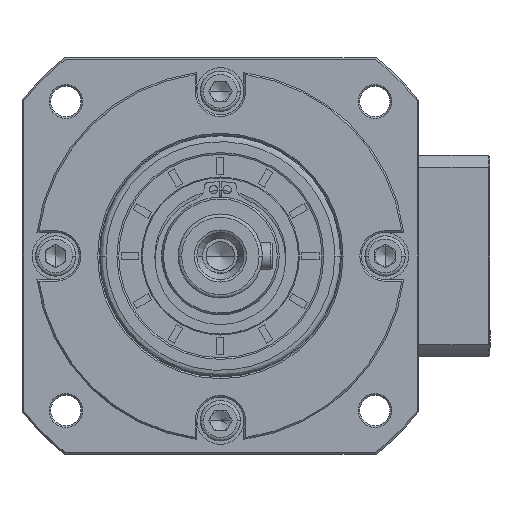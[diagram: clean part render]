
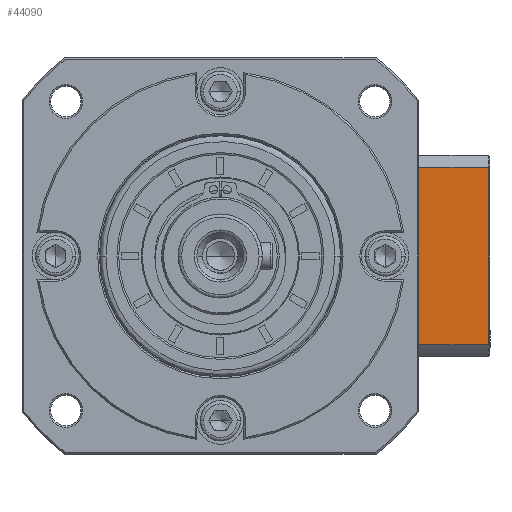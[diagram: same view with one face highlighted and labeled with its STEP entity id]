
A CAD part, left-side view. The second image highlights one B-rep face of the part: STEP entity #44090.
In plain terms, the highlighted planar face has unit normal (-1, 0, 0).
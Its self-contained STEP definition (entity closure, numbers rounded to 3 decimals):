
#1689 = VECTOR ( 'NONE', #23761, 1000. ) ;
#9745 = VERTEX_POINT ( 'NONE', #11783 ) ;
#10351 = CARTESIAN_POINT ( 'NONE',  ( -20.961, -58.409, -101.739 ) ) ;
#11783 = CARTESIAN_POINT ( 'NONE',  ( -20.961, -100.109, -93.309 ) ) ;
#17224 = LINE ( 'NONE', #60026, #156651 ) ;
#22092 = VERTEX_POINT ( 'NONE', #69784 ) ;
#23597 = LINE ( 'NONE', #56377, #162956 ) ;
#23761 = DIRECTION ( 'NONE',  ( 0., 0., -1. ) ) ;
#26802 = VERTEX_POINT ( 'NONE', #75598 ) ;
#29046 = CARTESIAN_POINT ( 'NONE',  ( -20.961, -74.458, -140.674 ) ) ;
#29794 = DIRECTION ( 'NONE',  ( 0., 1., 0. ) ) ;
#31846 = VECTOR ( 'NONE', #54413, 1000. ) ;
#34319 = CARTESIAN_POINT ( 'NONE',  ( -20.961, -74.458, -98.859 ) ) ;
#34397 = DIRECTION ( 'NONE',  ( 1., 0., 0. ) ) ;
#36609 = VERTEX_POINT ( 'NONE', #58576 ) ;
#42649 = CARTESIAN_POINT ( 'NONE',  ( -20.961, -72.909, -137.794 ) ) ;
#44090 = ADVANCED_FACE ( 'NONE', ( #70132 ), #60970, .F. ) ;
#44482 = VERTEX_POINT ( 'NONE', #162321 ) ;
#45372 = EDGE_CURVE ( 'NONE', #91946, #76340, #132675, .T. ) ;
#47194 = VERTEX_POINT ( 'NONE', #64048 ) ;
#47904 = CARTESIAN_POINT ( 'NONE',  ( -20.961, -77.007, -94.673 ) ) ;
#48639 = EDGE_CURVE ( 'NONE', #44482, #47194, #71996, .T. ) ;
#53375 = EDGE_CURVE ( 'NONE', #36609, #9745, #17224, .T. ) ;
#54413 = DIRECTION ( 'NONE',  ( 0., 1., 0. ) ) ;
#55921 = ORIENTED_EDGE ( 'NONE', *, *, #48639, .F. ) ;
#56377 = CARTESIAN_POINT ( 'NONE',  ( -20.961, -100.609, -146.224 ) ) ;
#56795 = ORIENTED_EDGE ( 'NONE', *, *, #145570, .F. ) ;
#57300 = B_SPLINE_CURVE_WITH_KNOTS ( 'NONE', 3,
 ( #96323, #109388, #109970, #29046, #123509, #42649 ),
 .UNSPECIFIED., .F., .F.,
 ( 4, 2, 4 ),
 ( 0., 0.005, 0.01 ),
 .UNSPECIFIED. ) ;
#58576 = CARTESIAN_POINT ( 'NONE',  ( -20.961, -77.909, -93.309 ) ) ;
#60026 = CARTESIAN_POINT ( 'NONE',  ( -20.961, -100.609, -93.309 ) ) ;
#60866 = VECTOR ( 'NONE', #165232, 1000. ) ;
#60970 = PLANE ( 'NONE',  #61516 ) ;
#61516 = AXIS2_PLACEMENT_3D ( 'NONE', #115255, #34397, #128830 ) ;
#64048 = CARTESIAN_POINT ( 'NONE',  ( -20.961, -58.409, -137.794 ) ) ;
#67960 = CARTESIAN_POINT ( 'NONE',  ( -20.961, -72.909, -137.794 ) ) ;
#69784 = CARTESIAN_POINT ( 'NONE',  ( -20.961, -77.909, -146.224 ) ) ;
#70132 = FACE_OUTER_BOUND ( 'NONE', #76410, .T. ) ;
#70839 = CARTESIAN_POINT ( 'NONE',  ( -20.961, -100.609, -101.739 ) ) ;
#71996 = LINE ( 'NONE', #67960, #31846 ) ;
#74442 = CARTESIAN_POINT ( 'NONE',  ( -20.961, -72.909, -101.739 ) ) ;
#75598 = CARTESIAN_POINT ( 'NONE',  ( -20.961, -100.109, -146.224 ) ) ;
#76340 = VERTEX_POINT ( 'NONE', #129571 ) ;
#76410 = EDGE_LOOP ( 'NONE', ( #93233, #146979, #56795, #115026, #101735, #55921, #127004, #95961 ) ) ;
#78848 = DIRECTION ( 'NONE',  ( 0., 0., -1. ) ) ;
#84258 = LINE ( 'NONE', #159737, #156162 ) ;
#87718 = DIRECTION ( 'NONE',  ( 0., -1., 0. ) ) ;
#87975 = CARTESIAN_POINT ( 'NONE',  ( -20.961, -73.658, -100.284 ) ) ;
#91580 = CARTESIAN_POINT ( 'NONE',  ( -20.961, -100.109, -149.766 ) ) ;
#91946 = VERTEX_POINT ( 'NONE', #10351 ) ;
#93233 = ORIENTED_EDGE ( 'NONE', *, *, #109505, .F. ) ;
#95961 = ORIENTED_EDGE ( 'NONE', *, *, #162093, .F. ) ;
#96323 = CARTESIAN_POINT ( 'NONE',  ( -20.961, -77.909, -146.224 ) ) ;
#101735 = ORIENTED_EDGE ( 'NONE', *, *, #149735, .T. ) ;
#109388 = CARTESIAN_POINT ( 'NONE',  ( -20.961, -77.007, -144.86 ) ) ;
#109505 = EDGE_CURVE ( 'NONE', #9745, #26802, #141157, .T. ) ;
#109970 = CARTESIAN_POINT ( 'NONE',  ( -20.961, -76.133, -143.479 ) ) ;
#115026 = ORIENTED_EDGE ( 'NONE', *, *, #45372, .F. ) ;
#115255 = CARTESIAN_POINT ( 'NONE',  ( -20.961, -100.609, -149.766 ) ) ;
#116931 = B_SPLINE_CURVE_WITH_KNOTS ( 'NONE', 3,
 ( #74442, #87975, #34319, #128759, #47904, #142354 ),
 .UNSPECIFIED., .F., .F.,
 ( 4, 2, 4 ),
 ( 0., 0.005, 0.01 ),
 .UNSPECIFIED. ) ;
#123509 = CARTESIAN_POINT ( 'NONE',  ( -20.961, -73.658, -139.249 ) ) ;
#127004 = ORIENTED_EDGE ( 'NONE', *, *, #166528, .F. ) ;
#128759 = CARTESIAN_POINT ( 'NONE',  ( -20.961, -76.133, -96.054 ) ) ;
#128830 = DIRECTION ( 'NONE',  ( 0., 1., 0. ) ) ;
#129571 = CARTESIAN_POINT ( 'NONE',  ( -20.961, -72.909, -101.739 ) ) ;
#132675 = LINE ( 'NONE', #70839, #60866 ) ;
#141157 = LINE ( 'NONE', #91580, #1689 ) ;
#142354 = CARTESIAN_POINT ( 'NONE',  ( -20.961, -77.909, -93.309 ) ) ;
#145570 = EDGE_CURVE ( 'NONE', #76340, #36609, #116931, .T. ) ;
#146979 = ORIENTED_EDGE ( 'NONE', *, *, #53375, .F. ) ;
#149735 = EDGE_CURVE ( 'NONE', #91946, #47194, #84258, .T. ) ;
#156162 = VECTOR ( 'NONE', #78848, 1000. ) ;
#156651 = VECTOR ( 'NONE', #87718, 1000. ) ;
#159737 = CARTESIAN_POINT ( 'NONE',  ( -20.961, -58.409, -87.266 ) ) ;
#162093 = EDGE_CURVE ( 'NONE', #26802, #22092, #23597, .T. ) ;
#162321 = CARTESIAN_POINT ( 'NONE',  ( -20.961, -72.909, -137.794 ) ) ;
#162956 = VECTOR ( 'NONE', #29794, 1000. ) ;
#165232 = DIRECTION ( 'NONE',  ( 0., -1., 0. ) ) ;
#166528 = EDGE_CURVE ( 'NONE', #22092, #44482, #57300, .T. ) ;
